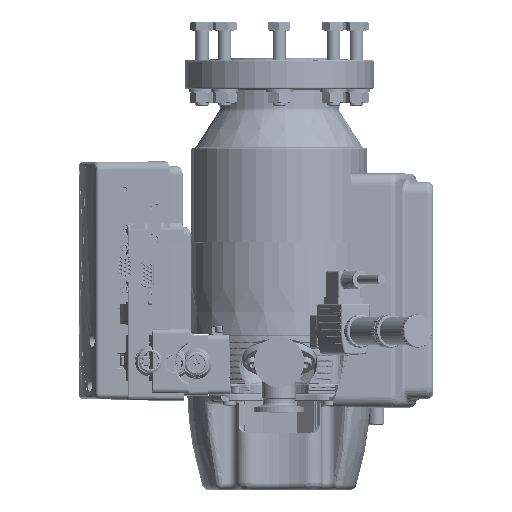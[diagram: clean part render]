
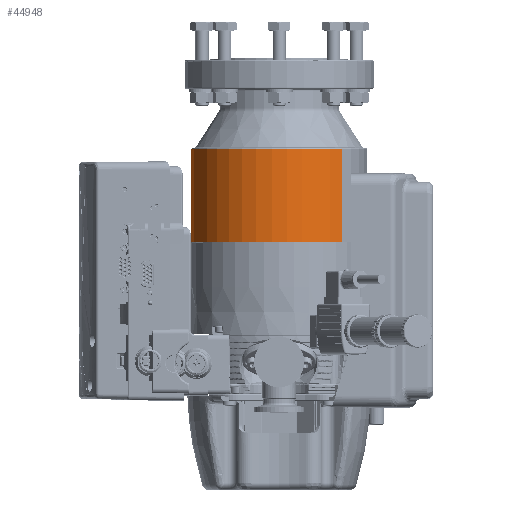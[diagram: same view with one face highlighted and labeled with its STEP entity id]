
A CAD part, top view. The second image highlights one B-rep face of the part: STEP entity #44948.
In plain terms, the highlighted cylindrical face has radius 52.75 mm (diameter 105.5 mm), a partial arc.
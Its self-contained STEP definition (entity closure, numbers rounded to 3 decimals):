
#15192=DIRECTION('',(0.,1.,0.));
#15193=VECTOR('',#15192,55.5);
#15194=CARTESIAN_POINT('',(37.3,26.,37.3));
#15195=LINE('',#15194,#15193);
#15196=DIRECTION('',(0.,-1.,0.));
#15197=VECTOR('',#15196,55.5);
#15198=CARTESIAN_POINT('',(-37.3,81.5,-37.3));
#15199=LINE('',#15198,#15197);
#15200=CARTESIAN_POINT('',(0.,26.,0.));
#15201=DIRECTION('',(0.,-1.,0.));
#15202=DIRECTION('',(0.707,0.,0.707));
#15203=AXIS2_PLACEMENT_3D('',#15200,#15201,#15202);
#15205=CARTESIAN_POINT('',(0.,81.5,0.));
#15206=DIRECTION('',(0.,-1.,0.));
#15207=DIRECTION('',(0.707,0.,0.707));
#15208=AXIS2_PLACEMENT_3D('',#15205,#15206,#15207);
#17301=CARTESIAN_POINT('',(37.3,26.,37.3));
#17302=CARTESIAN_POINT('',(-37.3,26.,-37.3));
#17303=VERTEX_POINT('',#17301);
#17304=VERTEX_POINT('',#17302);
#17604=CARTESIAN_POINT('',(37.3,81.5,37.3));
#17605=VERTEX_POINT('',#17604);
#17606=CARTESIAN_POINT('',(-37.3,81.5,-37.3));
#17607=VERTEX_POINT('',#17606);
#44936=CARTESIAN_POINT('',(0.,53.75,0.));
#44937=DIRECTION('',(0.,-1.,0.));
#44938=DIRECTION('',(0.708,0.,0.706));
#44939=AXIS2_PLACEMENT_3D('',#44936,#44937,#44938);
#44940=CYLINDRICAL_SURFACE('',#44939,52.75);
#44941=ORIENTED_EDGE('',*,*,#44911,.T.);
#44942=ORIENTED_EDGE('',*,*,#44931,.F.);
#44944=ORIENTED_EDGE('',*,*,#44943,.F.);
#44945=ORIENTED_EDGE('',*,*,#44927,.F.);
#44946=EDGE_LOOP('',(#44941,#44942,#44944,#44945));
#44947=FACE_OUTER_BOUND('',#44946,.F.);
#15204=CIRCLE('',#15203,52.75);
#15209=CIRCLE('',#15208,52.75);
#44911=EDGE_CURVE('',#17303,#17304,#15204,.T.);
#44927=EDGE_CURVE('',#17303,#17605,#15195,.T.);
#44931=EDGE_CURVE('',#17607,#17304,#15199,.T.);
#44943=EDGE_CURVE('',#17605,#17607,#15209,.T.);
#44948=ADVANCED_FACE('',(#44947),#44940,.T.);
